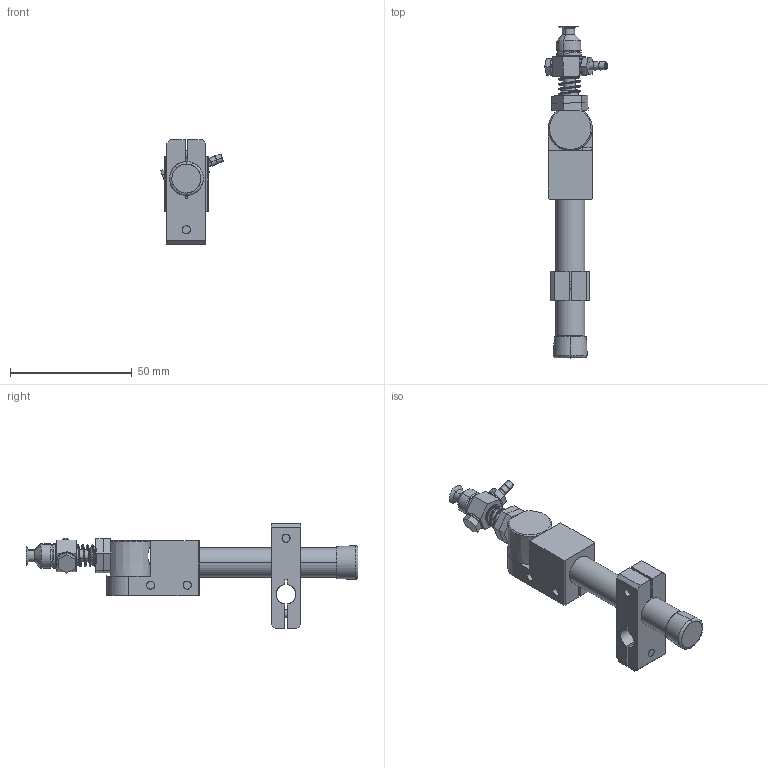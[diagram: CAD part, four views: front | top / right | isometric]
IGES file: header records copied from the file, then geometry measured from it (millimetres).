
Start section: SolidWorks IGES file using analytic representation for surfaces
Global section: file name: E:\EFCKishi\‹z’…\JSM\IGES\JSM-003.IGS; native system: SolidWorks 2006 by SolidWorks Corporation; preprocessor: SolidWorks 2006 by SolidWorks Corporation; author: CAD58; date: 080913.170544; units: millimetre
Bounding box: 25.69 x 136.05 x 43 mm (x, y, z)
Surface area: 21880.2 mm2 (no closed solid volume)
Topology: 0 solids, 0 shells, 336 faces, 4274 edges, 4250 vertices
Faces by surface type: bspline 201, revolution 135
